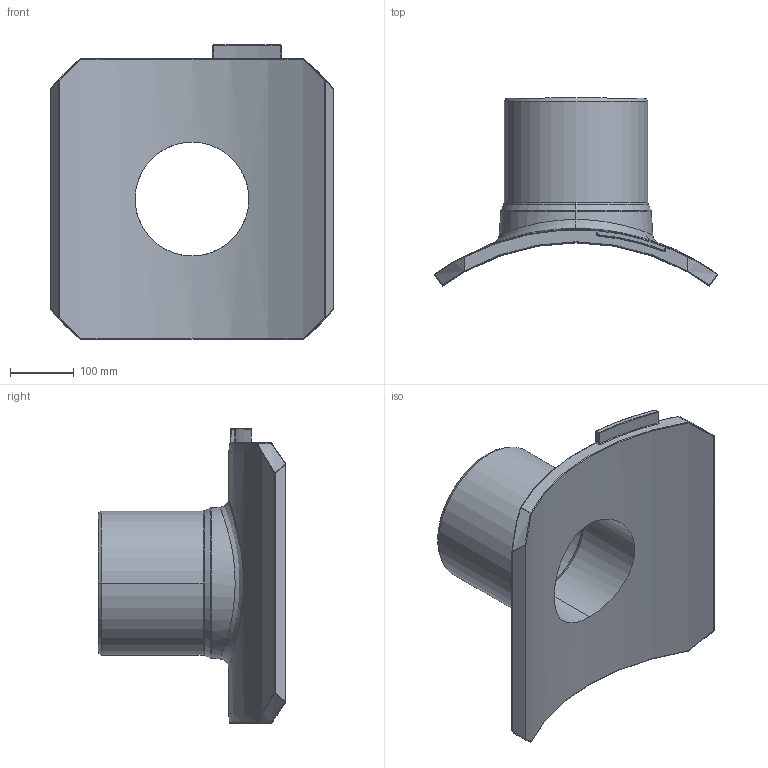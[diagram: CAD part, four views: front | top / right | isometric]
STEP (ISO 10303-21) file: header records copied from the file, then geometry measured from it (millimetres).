
FILE_DESCRIPTION((''),'2;1');
FILE_NAME('SA-UNI_D710_225_01','2024-07-01T11:30:14',('mikulicp'),(''),'CREO PARAMETRIC BY PTC INC, 2022124','CREO PARAMETRIC BY PTC INC, 2022124','');
FILE_SCHEMA(('AP242_MANAGED_MODEL_BASED_3D_ENGINEERING_MIM_LF { 1 0 10303 442 1 1 4 }'));
Length unit declared in the file: millimetre
Products named in the file (2): SA-UNI_D710_225_01; PE100
Bounding box: 442.29 x 293.37 x 460 mm (x, y, z)
Volume: 6944671.9 mm3; surface area: 659629.1 mm2
Topology: 1 solids, 1 shells, 235 faces, 569 edges, 352 vertices
Faces by surface type: bspline 74, plane 66, cylinder 49, sphere 20, torus 14, cone 12
Entity records: 14802 total; most frequent: CARTESIAN_POINT 6827, ORIENTED_EDGE 1138, DIRECTION 862, PRESENTATION_STYLE_ASSIGNMENT 581, STYLED_ITEM 570, CURVE_STYLE 569, EDGE_CURVE 569, VERTEX_POINT 352
